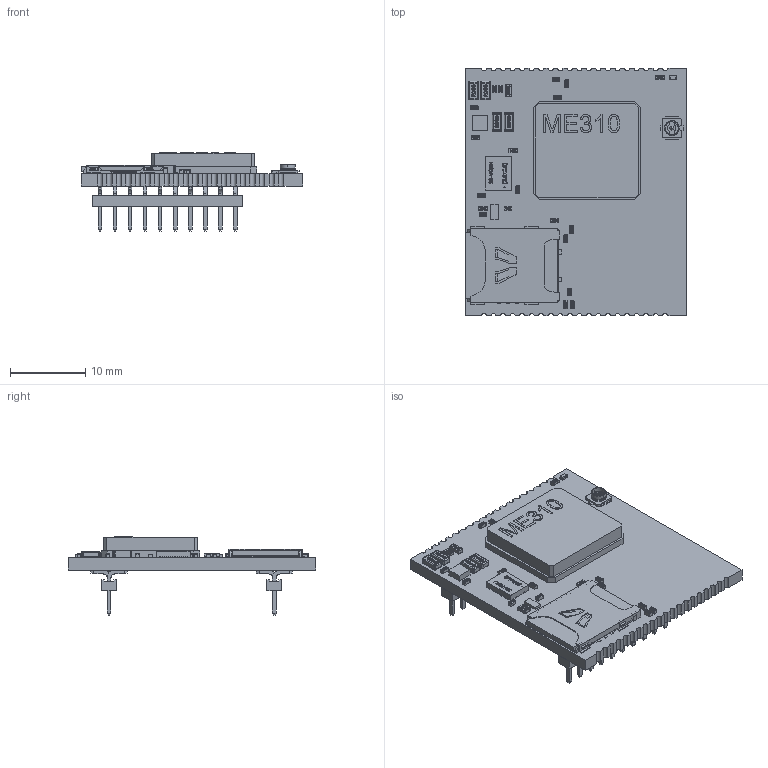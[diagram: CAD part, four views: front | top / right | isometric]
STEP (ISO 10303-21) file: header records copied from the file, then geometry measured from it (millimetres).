
FILE_DESCRIPTION(('Open CASCADE Model'),'2;1');
FILE_NAME('Open CASCADE Shape Model','2020-04-30T16:21:55',('Author'),( 'Open CASCADE'),'Open CASCADE STEP processor 6.8','Open CASCADE 6.8' ,'Unknown');
FILE_SCHEMA(('AUTOMOTIVE_DESIGN { 1 0 10303 214 1 1 1 1 }'));
Length unit declared in the file: millimetre
Products named in the file (68): PCB; BoardDES0272_10; Open CASCADE STEP translator 6.8 3.1.1; Open CASCADE STEP translator 6.8 3.1.1.1; R9DES0272_10; Resistor_1005-0402; U3DES0272_10; 6326260880; Extruded; C22DES0272_10; Capacitor_0402(1005M); C23DES0272_10; C21DES0272_10; C20DES0272_10; R8DES0272_10; D1DES0272_10; LED_0402_RED; U6DES0272_10; 6326257600; U5DES0272_10; VQFN-20_(3_5x4_5); R7DES0272_10; R1DES0272_10; L1DES0272_10; Resistor_1609-0603; C19DES0272_10; Capacitor_0805(2012M); C18DES0272_10; C17DES0272_10; C8DES0272_10; C7DES0272_10; C6DES0272_10; C5DES0272_10; C4DES0272_10; C3DES0272_10; C2DES0272_10; C1DES0272_10; C16DES0272_10; C15DES0272_10; C14DES0272_10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
Assembly tree (91 placements, depth 6):
  PCB
    BoardDES0272_10
      Open CASCADE STEP translator 6.8 3.1.1
        Open CASCADE STEP translator 6.8 3.1.1.1
    R9DES0272_10
      Resistor_1005-0402
    U3DES0272_10
      6326260880
        Extruded
    C22DES0272_10
      Capacitor_0402(1005M)
    C23DES0272_10
      Capacitor_0402(1005M)
    C21DES0272_10
      Capacitor_0402(1005M)
    C20DES0272_10
      Capacitor_0402(1005M)
    R8DES0272_10
      Resistor_1005-0402
    D1DES0272_10
      LED_0402_RED
    U6DES0272_10
      6326257600
        Extruded
    U5DES0272_10
      VQFN-20_(3_5x4_5)
    R7DES0272_10
      Resistor_1005-0402
    R1DES0272_10
      Resistor_1005-0402
    L1DES0272_10
      Resistor_1609-0603
    C19DES0272_10
      Capacitor_0805(2012M)
    C18DES0272_10
      Capacitor_0805(2012M)
    C17DES0272_10
      Capacitor_0402(1005M)
    C8DES0272_10
      Capacitor_0402(1005M)
    C7DES0272_10
      Capacitor_0402(1005M)
    C6DES0272_10
      Capacitor_0402(1005M)
    C5DES0272_10
      Capacitor_0402(1005M)
    C4DES0272_10
      Capacitor_0805(2012M)
    C3DES0272_10
      Capacitor_0805(2012M)
    C2DES0272_10
      Capacitor_0402(1005M)
    C1DES0272_10
      Capacitor_0402(1005M)
    C16DES0272_10
      Capacitor_0402(1005M)
    C15DES0272_10
      Capacitor_0402(1005M)
    C14DES0272_10
      Capacitor_0402(1005M)
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Bounding box: 29.5 x 33 x 10.39 mm (x, y, z)
Volume: 2856.6 mm3; surface area: 5689.7 mm2
Topology: 103 solids, 103 shells, 4676 faces, 12262 edges, 7925 vertices
Faces by surface type: plane 2693, bspline 1279, cylinder 633, extrusion 53, sphere 8, cone 8, revolution 2
Entity records: 82206 total; most frequent: CARTESIAN_POINT 26339, ORIENTED_EDGE 10310, DIRECTION 8490, EDGE_CURVE 5155, VECTOR 4152, LINE 4099, VERTEX_POINT 3375, AXIS2_PLACEMENT_3D 2168
